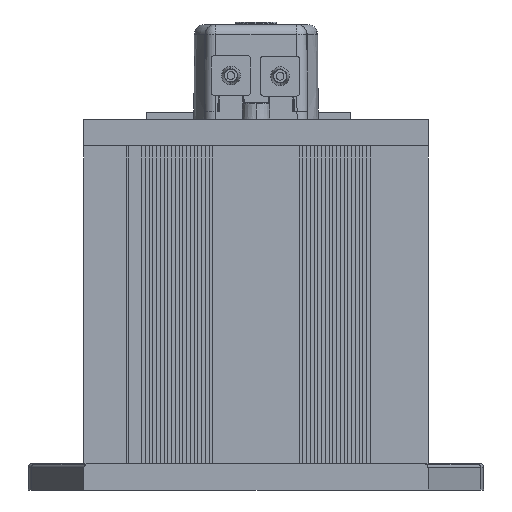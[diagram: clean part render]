
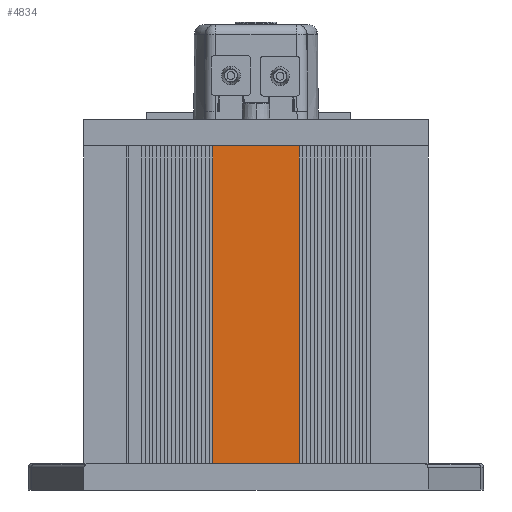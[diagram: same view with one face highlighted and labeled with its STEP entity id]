
A CAD part, left-side view. The second image highlights one B-rep face of the part: STEP entity #4834.
In plain terms, the highlighted planar face has unit normal (-1, 0, 0).
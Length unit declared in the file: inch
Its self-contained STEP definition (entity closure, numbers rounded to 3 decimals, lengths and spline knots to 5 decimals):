
#4834=ADVANCED_FACE('',(#10548),#10549,.T.);
#10548=FACE_OUTER_BOUND('',#17151,.T.);
#10549=PLANE('',#17152);
#17151=EDGE_LOOP('',(#34822,#34823,#34824,#34825));
#17152=AXIS2_PLACEMENT_3D('',#34826,#34827,#34828);
#34822=ORIENTED_EDGE('',*,*,#44573,.T.);
#34823=ORIENTED_EDGE('',*,*,#47127,.F.);
#34824=ORIENTED_EDGE('',*,*,#46804,.F.);
#34825=ORIENTED_EDGE('',*,*,#47125,.T.);
#34826=CARTESIAN_POINT('',(-12.05419,3.06408,-1.38908));
#34827=DIRECTION('',(-1.0,0.,0.));
#34828=DIRECTION('',(0.,-1.0,0.));
#44573=EDGE_CURVE('',#53987,#53985,#53988,.T.);
#46804=EDGE_CURVE('',#57151,#57153,#57154,.T.);
#47125=EDGE_CURVE('',#57151,#53987,#57609,.T.);
#47127=EDGE_CURVE('',#57153,#53985,#57611,.T.);
#53985=VERTEX_POINT('',#67380);
#53987=VERTEX_POINT('',#67383);
#53988=LINE('',#67384,#67385);
#57151=VERTEX_POINT('',#72070);
#57153=VERTEX_POINT('',#72073);
#57154=LINE('',#72074,#72075);
#57609=LINE('',#72759,#72760);
#57611=LINE('',#72762,#72763);
#67380=CARTESIAN_POINT('',(-12.05419,3.47215,1.61092));
#67383=CARTESIAN_POINT('',(-12.05419,2.65601,1.61092));
#67384=CARTESIAN_POINT('',(-12.05419,3.25928,1.61092));
#67385=VECTOR('',#84524,1.0);
#72070=CARTESIAN_POINT('',(-12.05419,2.65601,-1.38908));
#72073=CARTESIAN_POINT('',(-12.05419,3.47215,-1.38908));
#72074=CARTESIAN_POINT('',(-12.05419,3.25928,-1.38908));
#72075=VECTOR('',#86294,1.0);
#72759=CARTESIAN_POINT('',(-12.05419,2.65601,-1.38908));
#72760=VECTOR('',#86524,1.0);
#72762=CARTESIAN_POINT('',(-12.05419,3.47215,-1.38908));
#72763=VECTOR('',#86525,1.0);
#84524=DIRECTION('',(0.,1.0,0.));
#86294=DIRECTION('',(0.,1.0,0.));
#86524=DIRECTION('',(0.0,0.,1.0));
#86525=DIRECTION('',(0.0,0.,1.0));
